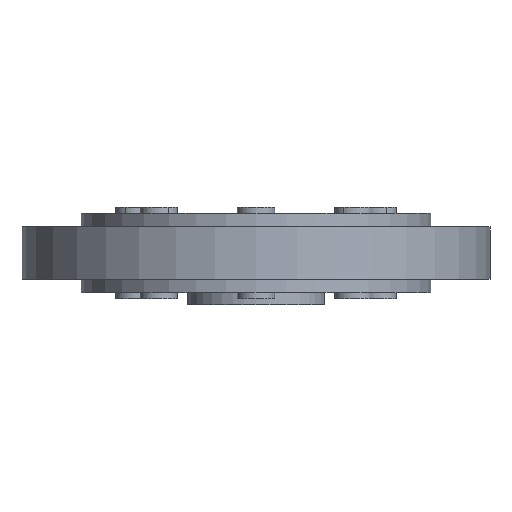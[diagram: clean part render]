
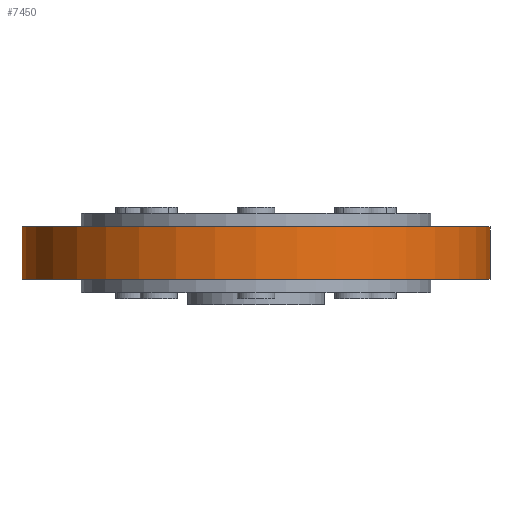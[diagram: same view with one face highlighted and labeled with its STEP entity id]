
A CAD part, front view. The second image highlights one B-rep face of the part: STEP entity #7450.
In plain terms, the highlighted cylindrical face has radius 37.5 mm (diameter 75 mm), a partial arc.
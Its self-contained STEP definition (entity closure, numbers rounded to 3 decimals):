
#126 = VECTOR ( 'NONE', #4556, 1000. ) ;
#450 = CARTESIAN_POINT ( 'NONE',  ( 37.5, 0., -4.2 ) ) ;
#1091 = EDGE_CURVE ( 'NONE', #1482, #5235, #7021, .T. ) ;
#1482 = VERTEX_POINT ( 'NONE', #4230 ) ;
#1988 = AXIS2_PLACEMENT_3D ( 'NONE', #4533, #3844, #4689 ) ;
#2038 = CYLINDRICAL_SURFACE ( 'NONE', #1988, 37.5 ) ;
#2614 = DIRECTION ( 'NONE',  ( 0., 0., 1. ) ) ;
#2788 = AXIS2_PLACEMENT_3D ( 'NONE', #3096, #2614, #5982 ) ;
#3096 = CARTESIAN_POINT ( 'NONE',  ( 0., 0., 4.2 ) ) ;
#3416 = AXIS2_PLACEMENT_3D ( 'NONE', #9001, #6738, #4965 ) ;
#3814 = CARTESIAN_POINT ( 'NONE',  ( -37.5, 0., 4.2 ) ) ;
#3844 = DIRECTION ( 'NONE',  ( 0., 0., -1. ) ) ;
#4230 = CARTESIAN_POINT ( 'NONE',  ( -37.5, 0., 4.2 ) ) ;
#4533 = CARTESIAN_POINT ( 'NONE',  ( 0., 0., 4.2 ) ) ;
#4556 = DIRECTION ( 'NONE',  ( 0., 0., -1. ) ) ;
#4689 = DIRECTION ( 'NONE',  ( -1., 0., 0. ) ) ;
#4738 = EDGE_CURVE ( 'NONE', #1482, #8849, #8444, .T. ) ;
#4965 = DIRECTION ( 'NONE',  ( 1., 0., 0. ) ) ;
#5226 = DIRECTION ( 'NONE',  ( 0., 0., -1. ) ) ;
#5235 = VERTEX_POINT ( 'NONE', #8225 ) ;
#5653 = ORIENTED_EDGE ( 'NONE', *, *, #4738, .F. ) ;
#5888 = CARTESIAN_POINT ( 'NONE',  ( 37.5, 0., 4.2 ) ) ;
#5982 = DIRECTION ( 'NONE',  ( 1., 0., 0. ) ) ;
#6738 = DIRECTION ( 'NONE',  ( 0., 0., 1. ) ) ;
#7021 = LINE ( 'NONE', #3814, #126 ) ;
#7097 = VECTOR ( 'NONE', #5226, 1000. ) ;
#7244 = EDGE_CURVE ( 'NONE', #8849, #9518, #9976, .T. ) ;
#7249 = EDGE_LOOP ( 'NONE', ( #7767, #5653, #10505, #8539 ) ) ;
#7450 = ADVANCED_FACE ( 'NONE', ( #8677 ), #2038, .T. ) ;
#7527 = CIRCLE ( 'NONE', #3416, 37.5 ) ;
#7767 = ORIENTED_EDGE ( 'NONE', *, *, #7244, .F. ) ;
#8188 = CARTESIAN_POINT ( 'NONE',  ( 37.5, 0., 4.2 ) ) ;
#8225 = CARTESIAN_POINT ( 'NONE',  ( -37.5, 0., -4.2 ) ) ;
#8444 = CIRCLE ( 'NONE', #2788, 37.5 ) ;
#8539 = ORIENTED_EDGE ( 'NONE', *, *, #10154, .T. ) ;
#8677 = FACE_OUTER_BOUND ( 'NONE', #7249, .T. ) ;
#8849 = VERTEX_POINT ( 'NONE', #8188 ) ;
#9001 = CARTESIAN_POINT ( 'NONE',  ( 0., 0., -4.2 ) ) ;
#9518 = VERTEX_POINT ( 'NONE', #450 ) ;
#9976 = LINE ( 'NONE', #5888, #7097 ) ;
#10154 = EDGE_CURVE ( 'NONE', #5235, #9518, #7527, .T. ) ;
#10505 = ORIENTED_EDGE ( 'NONE', *, *, #1091, .T. ) ;
